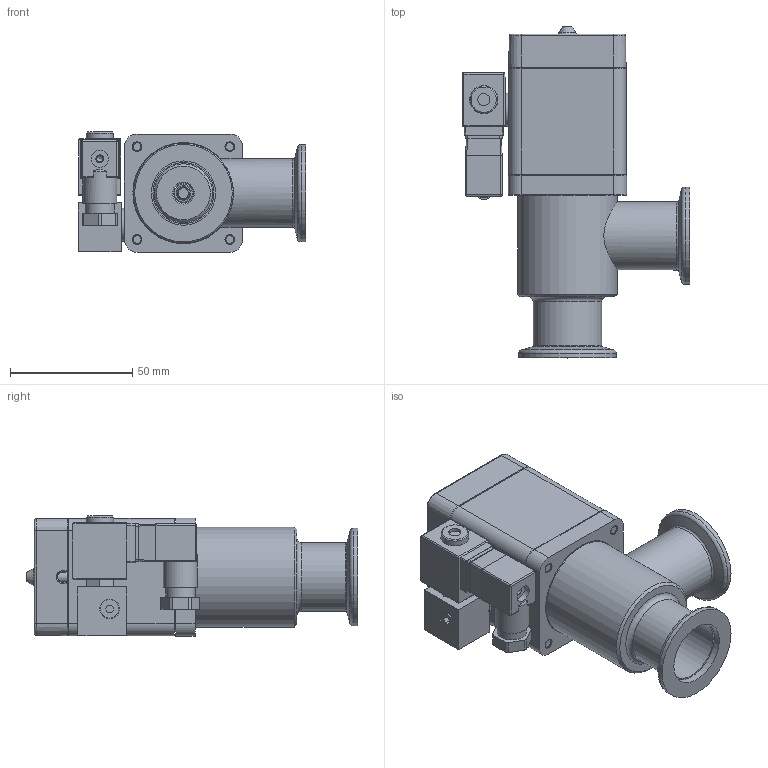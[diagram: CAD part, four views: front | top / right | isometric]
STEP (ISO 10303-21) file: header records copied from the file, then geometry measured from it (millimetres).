
FILE_DESCRIPTION(/* description */ (''),/* implementation_level */ '2;1');
FILE_NAME(/* name */ '1754932258_203.stp',/* time_stamp */ '2013-07-17T10:37:20+02:00',/* author */ (''),/* organization */ (''),/* preprocessor_version */ 'ST-DEVELOPER v11',/* originating_system */ 'SIEMENS PLM Software NX 7.5',/* authorisation */ '');
FILE_SCHEMA (('AP203_CONFIGURATION_CONTROLLED_3D_DESIGN_OF_MECHANICAL_PARTS_AND_ASSEMBLIES_MIM_LF'));
Length unit declared in the file: millimetre
Products named in the file (15): 245690.2; 245689.5; 245688.7; 233359; 236204_1.1; 238513.2; 238512.3; 239359.4; 245188.1; 243878.2; 238487.6; 245687.12; 239983.3; 235683.15_NX-ARRAGMNTZUSAMMENST1; 701841
Assembly tree (18 placements, depth 3):
  701841
    238487.6
    235683.15_NX-ARRAGMNTZUSAMMENST1
      238512.3
      238513.2
    243878.2
    245188.1  x4
    239359.4
    239983.3
      236204_1.1  x2
      233359
    245687.12
      245688.7
      245689.5
      245690.2
Bounding box: 93 x 135.91 x 49.3 mm (x, y, z)
Volume: 133868.4 mm3; surface area: 82678.2 mm2
Topology: 24 solids, 24 shells, 698 faces, 1655 edges, 1066 vertices
Faces by surface type: plane 394, cylinder 188, cone 75, bspline 20, torus 17, sphere 4
Full cylindrical faces by diameter (mm): 2.5 x4, 2.95 x1, 3 x8, 3.26 x4, 3.3 x5, 4 x12, 4.2 x1, 4.4 x1, 4.5 x4, 4.7 x3, 5 x4, 5.1 x1, 5.6 x2, 6 x4, 7 x5, 7.4 x2, 7.6 x1, 7.9 x1, 7.975 x3, 8 x6, 8.012 x2, 9.25 x1, 10.2 x1, 11.3 x1, 11.4 x1, 11.5 x2, 12 x1, 13.5 x1, 14 x2, 24 x1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
Entity records: 20253 total; most frequent: CARTESIAN_POINT 4029, DIRECTION 2912, ORIENTED_EDGE 2638, EDGE_CURVE 1319, AXIS2_PLACEMENT_3D 1052, VERTEX_POINT 947, EDGE_LOOP 884, LINE 808
